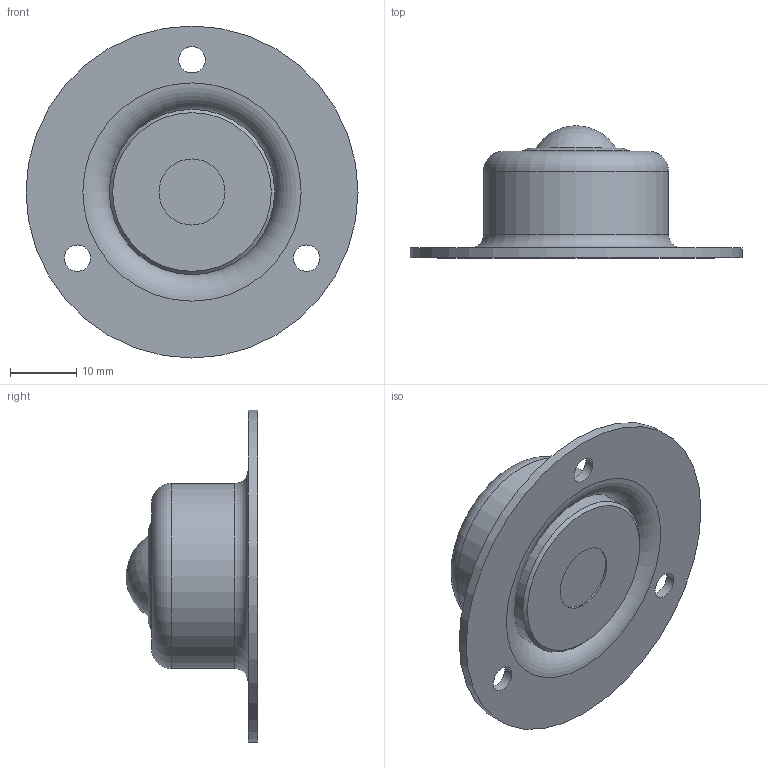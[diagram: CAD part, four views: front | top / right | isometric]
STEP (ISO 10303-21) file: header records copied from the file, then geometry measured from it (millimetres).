
FILE_DESCRIPTION(/* description */ (''),/* implementation_level */ '2;1');
FILE_NAME(/* name */ 'Z:\34-Tei\web 3Dデータ\14-IS-S型\IS-13S.stp',/* time_stamp */ '2015-01-09T13:11:29+09:00',/* author */ ('yamaki'),/* organization */ (''),/* preprocessor_version */ 'ST-DEVELOPER v15.6',/* originating_system */ 'Autodesk Inventor 2015',/* authorisation */ '');
FILE_SCHEMA (('AUTOMOTIVE_DESIGN { 1 0 10303 214 3 1 1 }'));
Length unit declared in the file: millimetre
Products named in the file (1): IS-13S
Bounding box: 50.2 x 19.95 x 50.2 mm (x, y, z)
Volume: 11806.1 mm3; surface area: 5797.1 mm2
Topology: 1 solids, 1 shells, 20 faces, 38 edges, 25 vertices
Faces by surface type: cylinder 7, plane 6, torus 5, cone 1, sphere 1
Full cylindrical faces by diameter (mm): 4 x3, 10 x1, 25 x1, 28 x1, 50.2 x1
Entity records: 494 total; most frequent: DIRECTION 86, CARTESIAN_POINT 65, EDGE_LOOP 44, ORIENTED_EDGE 44, AXIS2_PLACEMENT_3D 43, FACE_BOUND 24, CIRCLE 22, VERTEX_POINT 22
